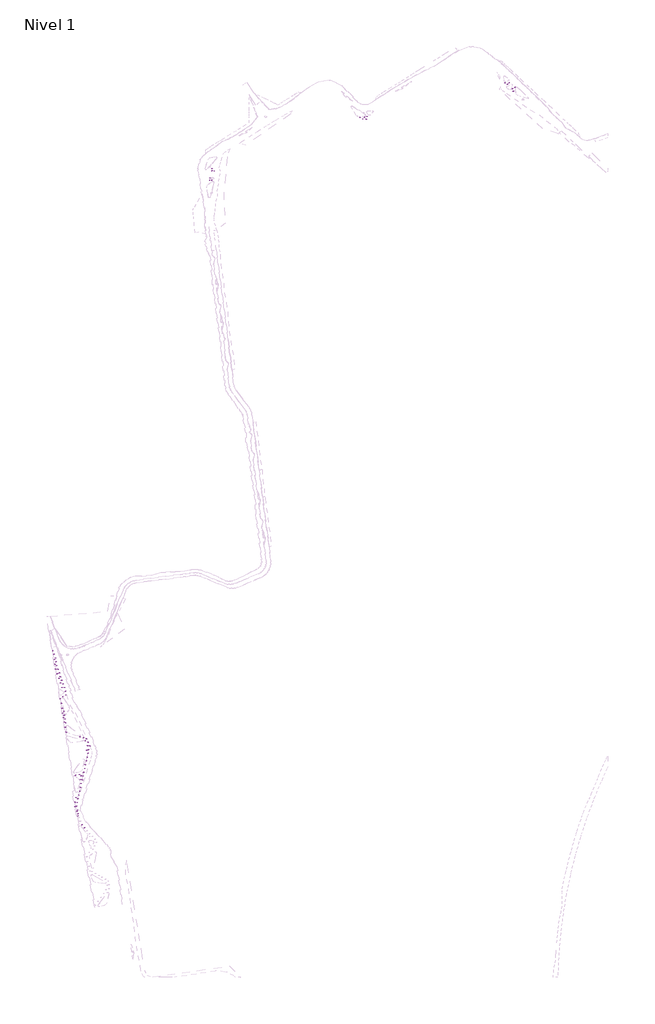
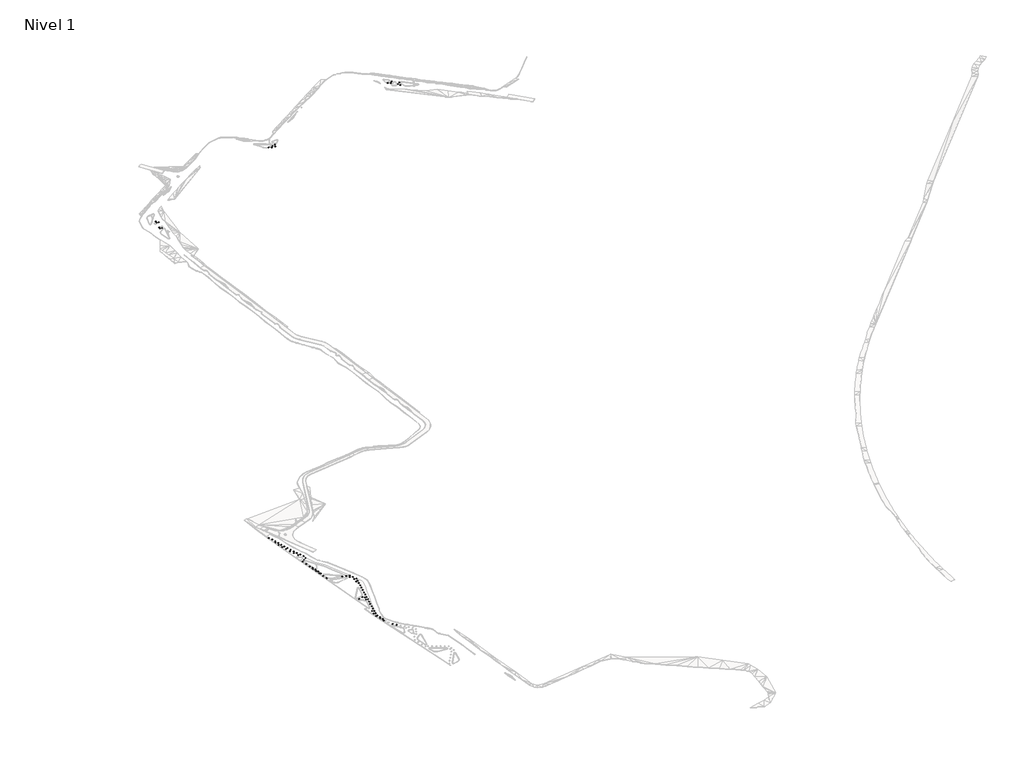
# One storey, part 45 of 45: 87 proxies.
"""IFC4 building model written with IfcOpenShell, lengths in millimetres."""

import ifcopenshell
import ifcopenshell.guid

model = None  # the IFC model being written
_history = None  # IfcOwnerHistory: only IFC2X3 demands one
_inside = {}  # id of a spatial element -> (the spatial element, [elements in it])
_under = {}  # id of a project, library or spatial element -> (it, [spatial elements below it])
_declared = {}  # id of a project -> (the project, [libraries it declares])
_typed = {}  # id of a type object -> (the type object, [elements of that type])
_made_of = {}  # id of a material, layer set ... -> (it, [elements and type objects made of it])


def new_model(schema):
    """Start an empty IFC model of exactly this schema.

    Asked for "IFC4X3", IfcOpenShell would pick the latest addendum, in which some entities
    have other attributes; the version numbers below select the first issue.
    IFC2X3 requires an IfcOwnerHistory on every rooted entity: one is made here for all.
    """
    global model, _history
    if schema == "IFC4X3":
        model = ifcopenshell.file(schema_version=(4, 3, 0, 0))
    else:
        model = ifcopenshell.file(schema=schema)
    _inside.clear()
    _under.clear()
    _declared.clear()
    _typed.clear()
    _made_of.clear()
    _history = None
    if model.schema == "IFC2X3":
        org = make("IfcOrganization", Name="unknown")
        user = make(
            "IfcPersonAndOrganization",
            ThePerson=make("IfcPerson", FamilyName="unknown"),
            TheOrganization=org,
        )
        app = make(
            "IfcApplication",
            ApplicationDeveloper=org,
            Version="unknown",
            ApplicationFullName="unknown",
            ApplicationIdentifier="unknown",
        )
        _history = make(
            "IfcOwnerHistory",
            OwningUser=user,
            OwningApplication=app,
            ChangeAction="ADDED",
            CreationDate=0,
        )
    return model


def make(cls, **values):
    """One entity of the class cls with the attributes given. An attribute that is None is left unset."""
    return model.create_entity(
        cls, **{name: value for name, value in values.items() if value is not None}
    )


def rooted(cls, **values):
    """An entity with a GlobalId (a new one), such as an element, a storey or a relation."""
    return make(cls, GlobalId=ifcopenshell.guid.new(), OwnerHistory=_history, **values)


def si_unit(unit_type, name, prefix=None):
    """IfcSIUnit, for example si_unit("LENGTHUNIT", "METRE", prefix="MILLI")."""
    return make("IfcSIUnit", UnitType=unit_type, Prefix=prefix, Name=name)


def assignment(units):
    """IfcUnitAssignment: the units of a project."""
    return None if units is None else make("IfcUnitAssignment", Units=units)


def point(xyz):
    """IfcCartesianPoint."""
    return None if xyz is None else make("IfcCartesianPoint", Coordinates=xyz)


def direction(xyz):
    """IfcDirection."""
    return None if xyz is None else make("IfcDirection", DirectionRatios=xyz)


def frame(location, z_axis=None, x_axis=None):
    """IfcAxis2Placement3D, a coordinate frame: its origin and axes. An axis left out is left unset."""
    return make(
        "IfcAxis2Placement3D",
        Location=point(location),
        Axis=direction(z_axis),
        RefDirection=direction(x_axis),
    )


def frame_2d(location, x_axis=None):
    """IfcAxis2Placement2D, a coordinate frame in the plane: its origin and x axis."""
    return make(
        "IfcAxis2Placement2D", Location=point(location), RefDirection=direction(x_axis)
    )


def origin():
    """The frame at (0, 0, 0) with its axes left unset."""
    return frame((0.0, 0.0, 0.0))


def origin_with_axes():
    """The frame at (0, 0, 0) with the z axis (0, 0, 1) and the x axis (1, 0, 0) written out."""
    return frame((0.0, 0.0, 0.0), z_axis=(0.0, 0.0, 1.0), x_axis=(1.0, 0.0, 0.0))


def origin_2d():
    """The frame at (0, 0) in the plane with its x axis left unset."""
    return frame_2d((0.0, 0.0))


def place(relative_to, where):
    """IfcLocalPlacement: puts the frame where relative to a parent placement (None: the world)."""
    return make(
        "IfcLocalPlacement", PlacementRelTo=relative_to, RelativePlacement=where
    )


def context(
    kind, dimensions, precision=None, world=None, true_north=None, identifier=None
):
    """IfcGeometricRepresentationContext, for example the 3D "Model" context."""
    return make(
        "IfcGeometricRepresentationContext",
        ContextIdentifier=identifier,
        ContextType=kind,
        CoordinateSpaceDimension=dimensions,
        Precision=precision,
        WorldCoordinateSystem=world,
        TrueNorth=true_north,
    )


def project(units=None, contexts=None):
    """IfcProject with its units and contexts."""
    return rooted(
        "IfcProject",
        Name="project",
        RepresentationContexts=contexts,
        UnitsInContext=assignment(units),
    )


def spatial(cls, under=None, at=None, **own):
    """A site, building, storey or space (cls), placed at a placement, below another one or the project."""
    s = rooted(cls, ObjectPlacement=at, **own)
    if under is not None:
        _under.setdefault(under.id(), (under, []))[1].append(s)
    return s


def circle_curve(where, radius):
    """IfcCircle in the frame where."""
    return make("IfcCircle", Position=where, Radius=radius)


def trimmed(basis, trim1, trim2, sense, master):
    """IfcTrimmedCurve: the piece of a basis curve between two trims."""
    return make(
        "IfcTrimmedCurve",
        BasisCurve=basis,
        Trim1=trim1,
        Trim2=trim2,
        SenseAgreement=sense,
        MasterRepresentation=master,
    )


def segment(curve, same_sense, transition):
    """IfcCompositeCurveSegment."""
    return make(
        "IfcCompositeCurveSegment",
        Transition=transition,
        SameSense=same_sense,
        ParentCurve=curve,
    )


def composite_curve(segments, self_intersect=None):
    """IfcCompositeCurve: segments joined end to end."""
    return make("IfcCompositeCurve", Segments=segments, SelfIntersect=self_intersect)


def outline(outer, holes=None, kind="AREA"):
    """IfcArbitraryClosedProfileDef: a profile drawn as a closed curve; with holes, ...WithVoids."""
    if holes is None:
        return make("IfcArbitraryClosedProfileDef", ProfileType=kind, OuterCurve=outer)
    return make(
        "IfcArbitraryProfileDefWithVoids",
        ProfileType=kind,
        OuterCurve=outer,
        InnerCurves=holes,
    )


def extrude(swept, where, along, depth):
    """IfcExtrudedAreaSolid: the profile swept, set in the frame where, extruded along a direction by depth."""
    return make(
        "IfcExtrudedAreaSolid",
        SweptArea=swept,
        Position=where,
        ExtrudedDirection=direction(along),
        Depth=depth,
    )


def shape(context_of_items, identifier, shape_type, items):
    """IfcShapeRepresentation: the items that make up one representation, for example the "Body"."""
    return make(
        "IfcShapeRepresentation",
        ContextOfItems=context_of_items,
        RepresentationIdentifier=identifier,
        RepresentationType=shape_type,
        Items=items,
    )


def source(mapping_origin, context_of_items, identifier, shape_type, items):
    """IfcRepresentationMap: a shape defined once, which mapped items show again and again."""
    return make(
        "IfcRepresentationMap",
        MappingOrigin=mapping_origin,
        MappedRepresentation=shape(context_of_items, identifier, shape_type, items),
    )


def transform(
    local_origin,
    x_axis=None,
    y_axis=None,
    z_axis=None,
    scale=None,
    scale2=None,
    scale3=None,
    uniform=True,
):
    """IfcCartesianTransformationOperator3D, or its non-uniform kind. x_axis, y_axis, z_axis: its Axis1, 2, 3."""
    if uniform:
        return make(
            "IfcCartesianTransformationOperator3D",
            Axis1=direction(x_axis),
            Axis2=direction(y_axis),
            LocalOrigin=point(local_origin),
            Scale=scale,
            Axis3=direction(z_axis),
        )
    return make(
        "IfcCartesianTransformationOperator3DnonUniform",
        Axis1=direction(x_axis),
        Axis2=direction(y_axis),
        LocalOrigin=point(local_origin),
        Scale=scale,
        Axis3=direction(z_axis),
        Scale2=scale2,
        Scale3=scale3,
    )


def mapped(mapping_source, mapping_target):
    """IfcMappedItem: shows the shape of a source again, moved by a transform."""
    return make(
        "IfcMappedItem", MappingSource=mapping_source, MappingTarget=mapping_target
    )


def made_of(thing, what):
    """Note that an element or type object is made of a material, layer set ...; save() writes the relation."""
    if what is not None:
        _made_of.setdefault(what.id(), (what, []))[1].append(thing)
    return thing


def element(
    cls,
    number,
    at=None,
    inside=None,
    cuts=None,
    type_object=None,
    material=None,
    context=None,
    identifier="Body",
    shape_type=None,
    held_by="IfcProductDefinitionShape",
    body=None,
    shapes=None,
    **own,
):
    """One element of the class cls, such as IfcWall. Its Tag is "e" and its number.

    at: its placement. inside: the storey or other place that contains it. cuts: it is an
    opening in that element (IfcRelVoidsElement). A single representation is given by context,
    identifier, shape_type and body (its items); several are given by shapes. held_by: the class
    of the entity that holds the representations. save() writes the other relations.
    """
    e = rooted(cls, Tag="e%d" % number, ObjectPlacement=at, **own)
    if body is not None:
        shapes = [shape(context, identifier, shape_type, body)]
    if shapes is not None:
        e.Representation = make(held_by, Representations=shapes)
    if inside is not None:
        _inside.setdefault(inside.id(), (inside, []))[1].append(e)
    if cuts is not None:
        rooted(
            "IfcRelVoidsElement", RelatingBuildingElement=cuts, RelatedOpeningElement=e
        )
    if type_object is not None:
        _typed.setdefault(type_object.id(), (type_object, []))[1].append(e)
    return made_of(e, material)


def aggregate(whole, parts):
    """IfcRelAggregates: a whole, such as a stair, and the parts it consists of."""
    return rooted("IfcRelAggregates", RelatingObject=whole, RelatedObjects=parts)


def save(model, path):
    """Write the relations noted so far, then the file.

    IfcRelAggregates (storeys below a building ...), IfcRelContainedInSpatialStructure (elements
    in a storey), IfcRelDefinesByType, IfcRelAssociatesMaterial and IfcRelDeclares: one each for
    every whole, place, type object, material and project.
    """
    for whole, parts in _under.values():
        aggregate(whole, parts)
    for where, things in _inside.values():
        rooted(
            "IfcRelContainedInSpatialStructure",
            RelatedElements=things,
            RelatingStructure=where,
        )
    for kind, things in _typed.values():
        rooted("IfcRelDefinesByType", RelatedObjects=things, RelatingType=kind)
    for what, things in _made_of.values():
        rooted("IfcRelAssociatesMaterial", RelatedObjects=things, RelatingMaterial=what)
    for by, libraries in _declared.values():
        rooted("IfcRelDeclares", RelatingContext=by, RelatedDefinitions=libraries)
    model.write(path)


def generic_models_ee420f2a(model_context):
    return source(origin(), model_context, "Body", "SweptSolid", [
        extrude(outline(composite_curve([segment(trimmed(circle_curve(origin_2d(), 450.0), [point((-450.0, 0.0))], [point((450.0, 0.0))], False, "CARTESIAN"), True, "CONTINUOUS"), segment(trimmed(circle_curve(origin_2d(), 450.0), [point((450.0, 0.0))], [point((-450.0, 0.0))], False, "CARTESIAN"), True, "CONTINUOUS")], self_intersect=False)), origin_with_axes(), (0.0, 0.0, 1.0), 50.0),
    ])


model = new_model("IFC4")

# Units and contexts
model_context = context("Model", 3, world=origin())
ifc_project = project(units=[si_unit("LENGTHUNIT", "METRE", prefix="MILLI")], contexts=[model_context])

# Site, building, storey
site = spatial("IfcSite", under=ifc_project)
building = spatial("IfcBuilding", under=site)
storey = spatial("IfcBuildingStorey", under=building, Name="Nivel 1", Elevation=0.0)

# Proxies
placement = place(None, origin())
generic_models_shape = generic_models_ee420f2a(model_context)
element("IfcBuildingElementProxy", 1, Name="BOLARDO : BOLARDO", ObjectType="BOLARDO : BOLARDO", at=placement, inside=storey, context=model_context, shape_type="MappedRepresentation", body=[
    mapped(generic_models_shape, transform((-215905.1534154, 863766.5462096, 6750.0), x_axis=(1.0, 0.0, 0.0), y_axis=(0.0, 1.0, 0.0), z_axis=(0.0, 0.0, 1.0))),
])
element("IfcBuildingElementProxy", 2, Name="BOLARDO : BOLARDO", ObjectType="BOLARDO : BOLARDO", at=placement, inside=storey, context=model_context, shape_type="MappedRepresentation", body=[
    mapped(generic_models_shape, transform((-218007.1057565, 863988.2526787, 6750.0), x_axis=(1.0, 0.0, 0.0), y_axis=(0.0, 1.0, 0.0), z_axis=(0.0, 0.0, 1.0))),
])
element("IfcBuildingElementProxy", 3, Name="BOLARDO : BOLARDO", ObjectType="BOLARDO : BOLARDO", at=placement, inside=storey, context=model_context, shape_type="MappedRepresentation", body=[
    mapped(generic_models_shape, transform((-217791.882087, 866126.8897022, 6750.0), x_axis=(1.0, 0.0, 0.0), y_axis=(0.0, 1.0, 0.0), z_axis=(0.0, 0.0, 1.0))),
])
element("IfcBuildingElementProxy", 4, Name="BOLARDO : BOLARDO", ObjectType="BOLARDO : BOLARDO", at=placement, inside=storey, context=model_context, shape_type="MappedRepresentation", body=[
    mapped(generic_models_shape, transform((-213817.8643959, 873412.9110706, 6750.0), x_axis=(1.0, 0.0, 0.0), y_axis=(0.0, 1.0, 0.0), z_axis=(0.0, 0.0, 1.0))),
])
element("IfcBuildingElementProxy", 5, Name="BOLARDO : BOLARDO", ObjectType="BOLARDO : BOLARDO", at=placement, inside=storey, context=model_context, shape_type="MappedRepresentation", body=[
    mapped(generic_models_shape, transform((-215751.9029291, 875913.6105752, 6750.0), x_axis=(1.0, 0.0, 0.0), y_axis=(0.0, 1.0, 0.0), z_axis=(0.0, 0.0, 1.0))),
])
element("IfcBuildingElementProxy", 6, Name="BOLARDO : BOLARDO", ObjectType="BOLARDO : BOLARDO", at=placement, inside=storey, context=model_context, shape_type="MappedRepresentation", body=[
    mapped(generic_models_shape, transform((-215936.6836806, 873671.6041228, 6750.0), x_axis=(1.0, 0.0, 0.0), y_axis=(0.0, 1.0, 0.0), z_axis=(0.0, 0.0, 1.0))),
])
element("IfcBuildingElementProxy", 7, Name="BOLARDO : BOLARDO", ObjectType="BOLARDO : BOLARDO", at=placement, inside=storey, context=model_context, shape_type="MappedRepresentation", body=[
    mapped(generic_models_shape, transform((-55312.8251347, 929761.8099346, 6250.0), x_axis=(1.0, 0.0, 0.0), y_axis=(0.0, 1.0, 0.0), z_axis=(0.0, 0.0, 1.0))),
])
element("IfcBuildingElementProxy", 8, Name="BOLARDO : BOLARDO", ObjectType="BOLARDO : BOLARDO", at=placement, inside=storey, context=model_context, shape_type="MappedRepresentation", body=[
    mapped(generic_models_shape, transform((-56312.8251347, 927061.8099346, 6250.0), x_axis=(1.0, 0.0, 0.0), y_axis=(0.0, 1.0, 0.0), z_axis=(0.0, 0.0, 1.0))),
])
element("IfcBuildingElementProxy", 9, Name="BOLARDO : BOLARDO", ObjectType="BOLARDO : BOLARDO", at=placement, inside=storey, context=model_context, shape_type="MappedRepresentation", body=[
    mapped(generic_models_shape, transform((-58212.8251347, 929061.8099346, 6250.0), x_axis=(1.0, 0.0, 0.0), y_axis=(0.0, 1.0, 0.0), z_axis=(0.0, 0.0, 1.0))),
])
element("IfcBuildingElementProxy", 10, Name="BOLARDO : BOLARDO", ObjectType="BOLARDO : BOLARDO", at=placement, inside=storey, context=model_context, shape_type="MappedRepresentation", body=[
    mapped(generic_models_shape, transform((-60212.8251347, 927261.8099346, 6250.0), x_axis=(1.0, 0.0, 0.0), y_axis=(0.0, 1.0, 0.0), z_axis=(0.0, 0.0, 1.0))),
])
element("IfcBuildingElementProxy", 11, Name="BOLARDO : BOLARDO", ObjectType="BOLARDO : BOLARDO", at=placement, inside=storey, context=model_context, shape_type="MappedRepresentation", body=[
    mapped(generic_models_shape, transform((-62579.3076708, 928718.5296541, 6250.0), x_axis=(1.0, 0.0, 0.0), y_axis=(0.0, 1.0, 0.0), z_axis=(0.0, 0.0, 1.0))),
])
element("IfcBuildingElementProxy", 12, Name="BOLARDO : BOLARDO", ObjectType="BOLARDO : BOLARDO", at=placement, inside=storey, context=model_context, shape_type="MappedRepresentation", body=[
    mapped(generic_models_shape, transform((97481.5358106, 960008.7342542, 6000.0), x_axis=(1.0, 0.0, 0.0), y_axis=(0.0, 1.0, 0.0), z_axis=(0.0, 0.0, 1.0))),
])
element("IfcBuildingElementProxy", 13, Name="BOLARDO : BOLARDO", ObjectType="BOLARDO : BOLARDO", at=placement, inside=storey, context=model_context, shape_type="MappedRepresentation", body=[
    mapped(generic_models_shape, transform((95089.9839092, 958457.4573452, 6000.0), x_axis=(1.0, 0.0, 0.0), y_axis=(0.0, 1.0, 0.0), z_axis=(0.0, 0.0, 1.0))),
])
element("IfcBuildingElementProxy", 14, Name="BOLARDO : BOLARDO", ObjectType="BOLARDO : BOLARDO", at=placement, inside=storey, context=model_context, shape_type="MappedRepresentation", body=[
    mapped(generic_models_shape, transform((95865.6223637, 955936.632368, 6000.0), x_axis=(1.0, 0.0, 0.0), y_axis=(0.0, 1.0, 0.0), z_axis=(0.0, 0.0, 1.0))),
])
element("IfcBuildingElementProxy", 15, Name="BOLARDO : BOLARDO", ObjectType="BOLARDO : BOLARDO", at=placement, inside=storey, context=model_context, shape_type="MappedRepresentation", body=[
    mapped(generic_models_shape, transform((91836.6115027, 964899.5656202, 6000.0), x_axis=(1.0, 0.0, 0.0), y_axis=(0.0, 1.0, 0.0), z_axis=(0.0, 0.0, 1.0))),
])
element("IfcBuildingElementProxy", 16, Name="BOLARDO : BOLARDO", ObjectType="BOLARDO : BOLARDO", at=placement, inside=storey, context=model_context, shape_type="MappedRepresentation", body=[
    mapped(generic_models_shape, transform((89897.5153664, 963175.9246102, 6000.0), x_axis=(1.0, 0.0, 0.0), y_axis=(0.0, 1.0, 0.0), z_axis=(0.0, 0.0, 1.0))),
])
element("IfcBuildingElementProxy", 17, Name="BOLARDO : BOLARDO", ObjectType="BOLARDO : BOLARDO", at=placement, inside=storey, context=model_context, shape_type="MappedRepresentation", body=[
    mapped(generic_models_shape, transform((87484.4179523, 964619.4739561, 6000.0), x_axis=(1.0, 0.0, 0.0), y_axis=(0.0, 1.0, 0.0), z_axis=(0.0, 0.0, 1.0))),
])
element("IfcBuildingElementProxy", 18, Name="BOLARDO : BOLARDO", ObjectType="BOLARDO : BOLARDO", at=placement, inside=storey, context=model_context, shape_type="MappedRepresentation", body=[
    mapped(generic_models_shape, transform((-380832.3654979, 377180.7820486, 3500.0), x_axis=(1.0, 0.0, 0.0), y_axis=(0.0, 1.0, 0.0), z_axis=(0.0, 0.0, 1.0))),
])
element("IfcBuildingElementProxy", 19, Name="BOLARDO : BOLARDO", ObjectType="BOLARDO : BOLARDO", at=placement, inside=storey, context=model_context, shape_type="MappedRepresentation", body=[
    mapped(generic_models_shape, transform((-379411.5889268, 373434.6126507, 3500.0), x_axis=(1.0, 0.0, 0.0), y_axis=(0.0, 1.0, 0.0), z_axis=(0.0, 0.0, 1.0))),
])
element("IfcBuildingElementProxy", 20, Name="BOLARDO : BOLARDO", ObjectType="BOLARDO : BOLARDO", at=placement, inside=storey, context=model_context, shape_type="MappedRepresentation", body=[
    mapped(generic_models_shape, transform((-378077.6693799, 369596.4239055, 3500.0), x_axis=(1.0, 0.0, 0.0), y_axis=(0.0, 1.0, 0.0), z_axis=(0.0, 0.0, 1.0))),
])
element("IfcBuildingElementProxy", 21, Name="BOLARDO : BOLARDO", ObjectType="BOLARDO : BOLARDO", at=placement, inside=storey, context=model_context, shape_type="MappedRepresentation", body=[
    mapped(generic_models_shape, transform((-379057.2950017, 368097.6948086, 3500.0), x_axis=(1.0, 0.0, 0.0), y_axis=(0.0, 1.0, 0.0), z_axis=(0.0, 0.0, 1.0))),
])
element("IfcBuildingElementProxy", 22, Name="BOLARDO : BOLARDO", ObjectType="BOLARDO : BOLARDO", at=placement, inside=storey, context=model_context, shape_type="MappedRepresentation", body=[
    mapped(generic_models_shape, transform((-377236.4441882, 365734.2961734, 3500.0), x_axis=(1.0, 0.0, 0.0), y_axis=(0.0, 1.0, 0.0), z_axis=(0.0, 0.0, 1.0))),
])
element("IfcBuildingElementProxy", 23, Name="BOLARDO : BOLARDO", ObjectType="BOLARDO : BOLARDO", at=placement, inside=storey, context=model_context, shape_type="MappedRepresentation", body=[
    mapped(generic_models_shape, transform((-378348.9789036, 363014.1537799, 3500.0), x_axis=(1.0, 0.0, 0.0), y_axis=(0.0, 1.0, 0.0), z_axis=(0.0, 0.0, 1.0))),
])
element("IfcBuildingElementProxy", 24, Name="BOLARDO : BOLARDO", ObjectType="BOLARDO : BOLARDO", at=placement, inside=storey, context=model_context, shape_type="MappedRepresentation", body=[
    mapped(generic_models_shape, transform((-376327.0266584, 361822.3903809, 3500.0), x_axis=(1.0, 0.0, 0.0), y_axis=(0.0, 1.0, 0.0), z_axis=(0.0, 0.0, 1.0))),
])
element("IfcBuildingElementProxy", 25, Name="BOLARDO : BOLARDO", ObjectType="BOLARDO : BOLARDO", at=placement, inside=storey, context=model_context, shape_type="MappedRepresentation", body=[
    mapped(generic_models_shape, transform((-377460.9165113, 358070.1521602, 3500.0), x_axis=(1.0, 0.0, 0.0), y_axis=(0.0, 1.0, 0.0), z_axis=(0.0, 0.0, 1.0))),
])
element("IfcBuildingElementProxy", 26, Name="BOLARDO : BOLARDO", ObjectType="BOLARDO : BOLARDO", at=placement, inside=storey, context=model_context, shape_type="MappedRepresentation", body=[
    mapped(generic_models_shape, transform((-375190.9640392, 358070.1521602, 3500.0), x_axis=(1.0, 0.0, 0.0), y_axis=(0.0, 1.0, 0.0), z_axis=(0.0, 0.0, 1.0))),
])
element("IfcBuildingElementProxy", 27, Name="BOLARDO : BOLARDO", ObjectType="BOLARDO : BOLARDO", at=placement, inside=storey, context=model_context, shape_type="MappedRepresentation", body=[
    mapped(generic_models_shape, transform((-375949.2493496, 353271.9721871, 3500.0), x_axis=(1.0, 0.0, 0.0), y_axis=(0.0, 1.0, 0.0), z_axis=(0.0, 0.0, 1.0))),
])
element("IfcBuildingElementProxy", 28, Name="BOLARDO : BOLARDO", ObjectType="BOLARDO : BOLARDO", at=placement, inside=storey, context=model_context, shape_type="MappedRepresentation", body=[
    mapped(generic_models_shape, transform((-373961.57076, 354165.8394818, 3500.0), x_axis=(1.0, 0.0, 0.0), y_axis=(0.0, 1.0, 0.0), z_axis=(0.0, 0.0, 1.0))),
])
element("IfcBuildingElementProxy", 29, Name="BOLARDO : BOLARDO", ObjectType="BOLARDO : BOLARDO", at=placement, inside=storey, context=model_context, shape_type="MappedRepresentation", body=[
    mapped(generic_models_shape, transform((-374472.7128946, 348500.5791363, 3500.0), x_axis=(1.0, 0.0, 0.0), y_axis=(0.0, 1.0, 0.0), z_axis=(0.0, 0.0, 1.0))),
])
element("IfcBuildingElementProxy", 30, Name="BOLARDO : BOLARDO", ObjectType="BOLARDO : BOLARDO", at=placement, inside=storey, context=model_context, shape_type="MappedRepresentation", body=[
    mapped(generic_models_shape, transform((-372775.7520504, 350302.0836079, 3500.0), x_axis=(1.0, 0.0, 0.0), y_axis=(0.0, 1.0, 0.0), z_axis=(0.0, 0.0, 1.0))),
])
element("IfcBuildingElementProxy", 31, Name="BOLARDO : BOLARDO", ObjectType="BOLARDO : BOLARDO", at=placement, inside=storey, context=model_context, shape_type="MappedRepresentation", body=[
    mapped(generic_models_shape, transform((-372775.7520504, 343820.0335631, 3500.0), x_axis=(1.0, 0.0, 0.0), y_axis=(0.0, 1.0, 0.0), z_axis=(0.0, 0.0, 1.0))),
])
element("IfcBuildingElementProxy", 32, Name="BOLARDO : BOLARDO", ObjectType="BOLARDO : BOLARDO", at=placement, inside=storey, context=model_context, shape_type="MappedRepresentation", body=[
    mapped(generic_models_shape, transform((-371448.4893253, 346542.0653002, 3500.0), x_axis=(1.0, 0.0, 0.0), y_axis=(0.0, 1.0, 0.0), z_axis=(0.0, 0.0, 1.0))),
])
element("IfcBuildingElementProxy", 33, Name="BOLARDO : BOLARDO", ObjectType="BOLARDO : BOLARDO", at=placement, inside=storey, context=model_context, shape_type="MappedRepresentation", body=[
    mapped(generic_models_shape, transform((-370173.0230256, 342793.4387365, 3500.0), x_axis=(1.0, 0.0, 0.0), y_axis=(0.0, 1.0, 0.0), z_axis=(0.0, 0.0, 1.0))),
])
element("IfcBuildingElementProxy", 34, Name="BOLARDO : BOLARDO", ObjectType="BOLARDO : BOLARDO", at=placement, inside=storey, context=model_context, shape_type="MappedRepresentation", body=[
    mapped(generic_models_shape, transform((-371162.085484, 339073.2079263, 3500.0), x_axis=(1.0, 0.0, 0.0), y_axis=(0.0, 1.0, 0.0), z_axis=(0.0, 0.0, 1.0))),
])
element("IfcBuildingElementProxy", 35, Name="BOLARDO : BOLARDO", ObjectType="BOLARDO : BOLARDO", at=placement, inside=storey, context=model_context, shape_type="MappedRepresentation", body=[
    mapped(generic_models_shape, transform((-368688.5302918, 339073.2079263, 3500.0), x_axis=(1.0, 0.0, 0.0), y_axis=(0.0, 1.0, 0.0), z_axis=(0.0, 0.0, 1.0))),
])
element("IfcBuildingElementProxy", 36, Name="BOLARDO : BOLARDO", ObjectType="BOLARDO : BOLARDO", at=placement, inside=storey, context=model_context, shape_type="MappedRepresentation", body=[
    mapped(generic_models_shape, transform((-367362.085484, 335173.2079263, 3500.0), x_axis=(1.0, 0.0, 0.0), y_axis=(0.0, 1.0, 0.0), z_axis=(0.0, 0.0, 1.0))),
])
element("IfcBuildingElementProxy", 37, Name="BOLARDO : BOLARDO", ObjectType="BOLARDO : BOLARDO", at=placement, inside=storey, context=model_context, shape_type="MappedRepresentation", body=[
    mapped(generic_models_shape, transform((-367437.1342188, 331346.6579455, 3500.0), x_axis=(1.0, 0.0, 0.0), y_axis=(0.0, 1.0, 0.0), z_axis=(0.0, 0.0, 1.0))),
])
element("IfcBuildingElementProxy", 38, Name="BOLARDO : BOLARDO", ObjectType="BOLARDO : BOLARDO", at=placement, inside=storey, context=model_context, shape_type="MappedRepresentation", body=[
    mapped(generic_models_shape, transform((-370011.8897702, 329646.6579455, 3500.0), x_axis=(1.0, 0.0, 0.0), y_axis=(0.0, 1.0, 0.0), z_axis=(0.0, 0.0, 1.0))),
])
element("IfcBuildingElementProxy", 39, Name="BOLARDO : BOLARDO", ObjectType="BOLARDO : BOLARDO", at=placement, inside=storey, context=model_context, shape_type="MappedRepresentation", body=[
    mapped(generic_models_shape, transform((-372670.0712993, 327573.2079263, 3500.0), x_axis=(1.0, 0.0, 0.0), y_axis=(0.0, 1.0, 0.0), z_axis=(0.0, 0.0, 1.0))),
])
element("IfcBuildingElementProxy", 40, Name="BOLARDO : BOLARDO", ObjectType="BOLARDO : BOLARDO", at=placement, inside=storey, context=model_context, shape_type="MappedRepresentation", body=[
    mapped(generic_models_shape, transform((-371711.8897702, 322667.2874559, 3500.0), x_axis=(1.0, 0.0, 0.0), y_axis=(0.0, 1.0, 0.0), z_axis=(0.0, 0.0, 1.0))),
])
element("IfcBuildingElementProxy", 41, Name="BOLARDO : BOLARDO", ObjectType="BOLARDO : BOLARDO", at=placement, inside=storey, context=model_context, shape_type="MappedRepresentation", body=[
    mapped(generic_models_shape, transform((-370910.3095503, 317638.36604, 3500.0), x_axis=(1.0, 0.0, 0.0), y_axis=(0.0, 1.0, 0.0), z_axis=(0.0, 0.0, 1.0))),
])
element("IfcBuildingElementProxy", 42, Name="BOLARDO : BOLARDO", ObjectType="BOLARDO : BOLARDO", at=placement, inside=storey, context=model_context, shape_type="MappedRepresentation", body=[
    mapped(generic_models_shape, transform((-369449.7839787, 314367.6115908, 3500.0), x_axis=(1.0, 0.0, 0.0), y_axis=(0.0, 1.0, 0.0), z_axis=(0.0, 0.0, 1.0))),
])
element("IfcBuildingElementProxy", 43, Name="BOLARDO : BOLARDO", ObjectType="BOLARDO : BOLARDO", at=placement, inside=storey, context=model_context, shape_type="MappedRepresentation", body=[
    mapped(generic_models_shape, transform((-370130.4609509, 312677.6058161, 3500.0), x_axis=(1.0, 0.0, 0.0), y_axis=(0.0, 1.0, 0.0), z_axis=(0.0, 0.0, 1.0))),
])
element("IfcBuildingElementProxy", 44, Name="BOLARDO : BOLARDO", ObjectType="BOLARDO : BOLARDO", at=placement, inside=storey, context=model_context, shape_type="MappedRepresentation", body=[
    mapped(generic_models_shape, transform((-368746.1133817, 310359.9902227, 3500.0), x_axis=(1.0, 0.0, 0.0), y_axis=(0.0, 1.0, 0.0), z_axis=(0.0, 0.0, 1.0))),
])
element("IfcBuildingElementProxy", 45, Name="BOLARDO : BOLARDO", ObjectType="BOLARDO : BOLARDO", at=placement, inside=storey, context=model_context, shape_type="MappedRepresentation", body=[
    mapped(generic_models_shape, transform((-368124.5415362, 306508.4892019, 3500.0), x_axis=(1.0, 0.0, 0.0), y_axis=(0.0, 1.0, 0.0), z_axis=(0.0, 0.0, 1.0))),
])
element("IfcBuildingElementProxy", 46, Name="BOLARDO : BOLARDO", ObjectType="BOLARDO : BOLARDO", at=placement, inside=storey, context=model_context, shape_type="MappedRepresentation", body=[
    mapped(generic_models_shape, transform((-369449.7839787, 307923.9457052, 3500.0), x_axis=(1.0, 0.0, 0.0), y_axis=(0.0, 1.0, 0.0), z_axis=(0.0, 0.0, 1.0))),
])
element("IfcBuildingElementProxy", 47, Name="BOLARDO : BOLARDO", ObjectType="BOLARDO : BOLARDO", at=placement, inside=storey, context=model_context, shape_type="MappedRepresentation", body=[
    mapped(generic_models_shape, transform((-367418.0300699, 302502.0970554, 3500.0), x_axis=(1.0, 0.0, 0.0), y_axis=(0.0, 1.0, 0.0), z_axis=(0.0, 0.0, 1.0))),
])
element("IfcBuildingElementProxy", 48, Name="BOLARDO : BOLARDO", ObjectType="BOLARDO : BOLARDO", at=placement, inside=storey, context=model_context, shape_type="MappedRepresentation", body=[
    mapped(generic_models_shape, transform((-368506.8427648, 303357.5927442, 3500.0), x_axis=(1.0, 0.0, 0.0), y_axis=(0.0, 1.0, 0.0), z_axis=(0.0, 0.0, 1.0))),
])
element("IfcBuildingElementProxy", 49, Name="BOLARDO : BOLARDO", ObjectType="BOLARDO : BOLARDO", at=placement, inside=storey, context=model_context, shape_type="MappedRepresentation", body=[
    mapped(generic_models_shape, transform((-367614.0348625, 297951.027896, 3500.0), x_axis=(1.0, 0.0, 0.0), y_axis=(0.0, 1.0, 0.0), z_axis=(0.0, 0.0, 1.0))),
])
element("IfcBuildingElementProxy", 50, Name="BOLARDO : BOLARDO", ObjectType="BOLARDO : BOLARDO", at=placement, inside=storey, context=model_context, shape_type="MappedRepresentation", body=[
    mapped(generic_models_shape, transform((-366626.5491145, 292889.3863719, 3500.0), x_axis=(1.0, 0.0, 0.0), y_axis=(0.0, 1.0, 0.0), z_axis=(0.0, 0.0, 1.0))),
])
element("IfcBuildingElementProxy", 51, Name="BOLARDO : BOLARDO", ObjectType="BOLARDO : BOLARDO", at=placement, inside=storey, context=model_context, shape_type="MappedRepresentation", body=[
    mapped(generic_models_shape, transform((-352650.3519644, 287974.1871845, 3500.0), x_axis=(1.0, 0.0, 0.0), y_axis=(0.0, 1.0, 0.0), z_axis=(0.0, 0.0, 1.0))),
])
element("IfcBuildingElementProxy", 52, Name="BOLARDO : BOLARDO", ObjectType="BOLARDO : BOLARDO", at=placement, inside=storey, context=model_context, shape_type="MappedRepresentation", body=[
    mapped(generic_models_shape, transform((-348802.0793189, 287043.0138748, 3500.0), x_axis=(1.0, 0.0, 0.0), y_axis=(0.0, 1.0, 0.0), z_axis=(0.0, 0.0, 1.0))),
])
element("IfcBuildingElementProxy", 53, Name="BOLARDO : BOLARDO", ObjectType="BOLARDO : BOLARDO", at=placement, inside=storey, context=model_context, shape_type="MappedRepresentation", body=[
    mapped(generic_models_shape, transform((-346764.4223181, 283889.9420427, 3500.0), x_axis=(1.0, 0.0, 0.0), y_axis=(0.0, 1.0, 0.0), z_axis=(0.0, 0.0, 1.0))),
])
element("IfcBuildingElementProxy", 54, Name="BOLARDO : BOLARDO", ObjectType="BOLARDO : BOLARDO", at=placement, inside=storey, context=model_context, shape_type="MappedRepresentation", body=[
    mapped(generic_models_shape, transform((-344060.8539408, 282538.1578541, 3500.0), x_axis=(1.0, 0.0, 0.0), y_axis=(0.0, 1.0, 0.0), z_axis=(0.0, 0.0, 1.0))),
])
element("IfcBuildingElementProxy", 55, Name="BOLARDO : BOLARDO", ObjectType="BOLARDO : BOLARDO", at=placement, inside=storey, context=model_context, shape_type="MappedRepresentation", body=[
    mapped(generic_models_shape, transform((-345570.9391726, 285985.652201, 3500.0), x_axis=(1.0, 0.0, 0.0), y_axis=(0.0, 1.0, 0.0), z_axis=(0.0, 0.0, 1.0))),
])
element("IfcBuildingElementProxy", 56, Name="BOLARDO : BOLARDO", ObjectType="BOLARDO : BOLARDO", at=placement, inside=storey, context=model_context, shape_type="MappedRepresentation", body=[
    mapped(generic_models_shape, transform((-344837.9317697, 278882.325388, 3500.0), x_axis=(1.0, 0.0, 0.0), y_axis=(0.0, 1.0, 0.0), z_axis=(0.0, 0.0, 1.0))),
])
element("IfcBuildingElementProxy", 57, Name="BOLARDO : BOLARDO", ObjectType="BOLARDO : BOLARDO", at=placement, inside=storey, context=model_context, shape_type="MappedRepresentation", body=[
    mapped(generic_models_shape, transform((-342403.3195327, 278706.492282, 3500.0), x_axis=(1.0, 0.0, 0.0), y_axis=(0.0, 1.0, 0.0), z_axis=(0.0, 0.0, 1.0))),
])
element("IfcBuildingElementProxy", 58, Name="BOLARDO : BOLARDO", ObjectType="BOLARDO : BOLARDO", at=placement, inside=storey, context=model_context, shape_type="MappedRepresentation", body=[
    mapped(generic_models_shape, transform((-345396.0071257, 274108.2681804, 3500.0), x_axis=(1.0, 0.0, 0.0), y_axis=(0.0, 1.0, 0.0), z_axis=(0.0, 0.0, 1.0))),
])
element("IfcBuildingElementProxy", 59, Name="BOLARDO : BOLARDO", ObjectType="BOLARDO : BOLARDO", at=placement, inside=storey, context=model_context, shape_type="MappedRepresentation", body=[
    mapped(generic_models_shape, transform((-343461.8429597, 274838.6518515, 3500.0), x_axis=(1.0, 0.0, 0.0), y_axis=(0.0, 1.0, 0.0), z_axis=(0.0, 0.0, 1.0))),
])
element("IfcBuildingElementProxy", 60, Name="BOLARDO : BOLARDO", ObjectType="BOLARDO : BOLARDO", at=placement, inside=storey, context=model_context, shape_type="MappedRepresentation", body=[
    mapped(generic_models_shape, transform((-344299.248127, 271063.4812516, 3500.0), x_axis=(1.0, 0.0, 0.0), y_axis=(0.0, 1.0, 0.0), z_axis=(0.0, 0.0, 1.0))),
])
element("IfcBuildingElementProxy", 61, Name="BOLARDO : BOLARDO", ObjectType="BOLARDO : BOLARDO", at=placement, inside=storey, context=model_context, shape_type="MappedRepresentation", body=[
    mapped(generic_models_shape, transform((-345168.1628989, 267006.2756578, 3500.0), x_axis=(1.0, 0.0, 0.0), y_axis=(0.0, 1.0, 0.0), z_axis=(0.0, 0.0, 1.0))),
])
element("IfcBuildingElementProxy", 62, Name="BOLARDO : BOLARDO", ObjectType="BOLARDO : BOLARDO", at=placement, inside=storey, context=model_context, shape_type="MappedRepresentation", body=[
    mapped(generic_models_shape, transform((-346114.6661208, 263124.4784974, 3500.0), x_axis=(1.0, 0.0, 0.0), y_axis=(0.0, 1.0, 0.0), z_axis=(0.0, 0.0, 1.0))),
])
element("IfcBuildingElementProxy", 63, Name="BOLARDO : BOLARDO", ObjectType="BOLARDO : BOLARDO", at=placement, inside=storey, context=model_context, shape_type="MappedRepresentation", body=[
    mapped(generic_models_shape, transform((-346973.2397593, 259255.6459761, 3500.0), x_axis=(1.0, 0.0, 0.0), y_axis=(0.0, 1.0, 0.0), z_axis=(0.0, 0.0, 1.0))),
])
element("IfcBuildingElementProxy", 64, Name="BOLARDO : BOLARDO", ObjectType="BOLARDO : BOLARDO", at=placement, inside=storey, context=model_context, shape_type="MappedRepresentation", body=[
    mapped(generic_models_shape, transform((-347799.6744628, 255297.5769397, 3500.0), x_axis=(1.0, 0.0, 0.0), y_axis=(0.0, 1.0, 0.0), z_axis=(0.0, 0.0, 1.0))),
])
element("IfcBuildingElementProxy", 65, Name="BOLARDO : BOLARDO", ObjectType="BOLARDO : BOLARDO", at=placement, inside=storey, context=model_context, shape_type="MappedRepresentation", body=[
    mapped(generic_models_shape, transform((-348657.9640648, 251432.9383425, 3500.0), x_axis=(1.0, 0.0, 0.0), y_axis=(0.0, 1.0, 0.0), z_axis=(0.0, 0.0, 1.0))),
])
element("IfcBuildingElementProxy", 66, Name="BOLARDO : BOLARDO", ObjectType="BOLARDO : BOLARDO", at=placement, inside=storey, context=model_context, shape_type="MappedRepresentation", body=[
    mapped(generic_models_shape, transform((-349552.3459213, 247569.2087224, 3500.0), x_axis=(1.0, 0.0, 0.0), y_axis=(0.0, 1.0, 0.0), z_axis=(0.0, 0.0, 1.0))),
])
element("IfcBuildingElementProxy", 67, Name="BOLARDO : BOLARDO", ObjectType="BOLARDO : BOLARDO", at=placement, inside=storey, context=model_context, shape_type="MappedRepresentation", body=[
    mapped(generic_models_shape, transform((-351270.8910162, 247819.7659039, 3500.0), x_axis=(1.0, 0.0, 0.0), y_axis=(0.0, 1.0, 0.0), z_axis=(0.0, 0.0, 1.0))),
])
element("IfcBuildingElementProxy", 68, Name="BOLARDO : BOLARDO", ObjectType="BOLARDO : BOLARDO", at=placement, inside=storey, context=model_context, shape_type="MappedRepresentation", body=[
    mapped(generic_models_shape, transform((-353040.2164394, 249128.8621708, 3500.0), x_axis=(1.0, 0.0, 0.0), y_axis=(0.0, 1.0, 0.0), z_axis=(0.0, 0.0, 1.0))),
])
element("IfcBuildingElementProxy", 69, Name="BOLARDO : BOLARDO", ObjectType="BOLARDO : BOLARDO", at=placement, inside=storey, context=model_context, shape_type="MappedRepresentation", body=[
    mapped(generic_models_shape, transform((-357220.1875479, 248293.0844949, 3500.0), x_axis=(1.0, 0.0, 0.0), y_axis=(0.0, 1.0, 0.0), z_axis=(0.0, 0.0, 1.0))),
])
element("IfcBuildingElementProxy", 70, Name="BOLARDO : BOLARDO", ObjectType="BOLARDO : BOLARDO", at=placement, inside=storey, context=model_context, shape_type="MappedRepresentation", body=[
    mapped(generic_models_shape, transform((-352181.3743256, 243892.9940755, 3500.0), x_axis=(1.0, 0.0, 0.0), y_axis=(0.0, 1.0, 0.0), z_axis=(0.0, 0.0, 1.0))),
])
element("IfcBuildingElementProxy", 71, Name="BOLARDO : BOLARDO", ObjectType="BOLARDO : BOLARDO", at=placement, inside=storey, context=model_context, shape_type="MappedRepresentation", body=[
    mapped(generic_models_shape, transform((-350219.0048897, 243519.9993812, 3500.0), x_axis=(1.0, 0.0, 0.0), y_axis=(0.0, 1.0, 0.0), z_axis=(0.0, 0.0, 1.0))),
])
element("IfcBuildingElementProxy", 72, Name="BOLARDO : BOLARDO", ObjectType="BOLARDO : BOLARDO", at=placement, inside=storey, context=model_context, shape_type="MappedRepresentation", body=[
    mapped(generic_models_shape, transform((-351291.0286362, 239726.1608301, 3500.0), x_axis=(1.0, 0.0, 0.0), y_axis=(0.0, 1.0, 0.0), z_axis=(0.0, 0.0, 1.0))),
])
element("IfcBuildingElementProxy", 73, Name="BOLARDO : BOLARDO", ObjectType="BOLARDO : BOLARDO", at=placement, inside=storey, context=model_context, shape_type="MappedRepresentation", body=[
    mapped(generic_models_shape, transform((-352104.8765678, 235772.407907, 3500.0), x_axis=(1.0, 0.0, 0.0), y_axis=(0.0, 1.0, 0.0), z_axis=(0.0, 0.0, 1.0))),
])
element("IfcBuildingElementProxy", 74, Name="BOLARDO : BOLARDO", ObjectType="BOLARDO : BOLARDO", at=placement, inside=storey, context=model_context, shape_type="MappedRepresentation", body=[
    mapped(generic_models_shape, transform((-352970.5015672, 231833.3078383, 3500.0), x_axis=(1.0, 0.0, 0.0), y_axis=(0.0, 1.0, 0.0), z_axis=(0.0, 0.0, 1.0))),
])
element("IfcBuildingElementProxy", 75, Name="BOLARDO : BOLARDO", ObjectType="BOLARDO : BOLARDO", at=placement, inside=storey, context=model_context, shape_type="MappedRepresentation", body=[
    mapped(generic_models_shape, transform((-353936.8274258, 227883.403391, 3500.0), x_axis=(1.0, 0.0, 0.0), y_axis=(0.0, 1.0, 0.0), z_axis=(0.0, 0.0, 1.0))),
])
element("IfcBuildingElementProxy", 76, Name="BOLARDO : BOLARDO", ObjectType="BOLARDO : BOLARDO", at=placement, inside=storey, context=model_context, shape_type="MappedRepresentation", body=[
    mapped(generic_models_shape, transform((-356442.5605781, 225239.518371, 3500.0), x_axis=(1.0, 0.0, 0.0), y_axis=(0.0, 1.0, 0.0), z_axis=(0.0, 0.0, 1.0))),
])
element("IfcBuildingElementProxy", 77, Name="BOLARDO : BOLARDO", ObjectType="BOLARDO : BOLARDO", at=placement, inside=storey, context=model_context, shape_type="MappedRepresentation", body=[
    mapped(generic_models_shape, transform((-354672.4681063, 223995.1610054, 3500.0), x_axis=(1.0, 0.0, 0.0), y_axis=(0.0, 1.0, 0.0), z_axis=(0.0, 0.0, 1.0))),
])
element("IfcBuildingElementProxy", 78, Name="BOLARDO : BOLARDO", ObjectType="BOLARDO : BOLARDO", at=placement, inside=storey, context=model_context, shape_type="MappedRepresentation", body=[
    mapped(generic_models_shape, transform((-355557.5657688, 220153.3319279, 3500.0), x_axis=(1.0, 0.0, 0.0), y_axis=(0.0, 1.0, 0.0), z_axis=(0.0, 0.0, 1.0))),
])
element("IfcBuildingElementProxy", 79, Name="BOLARDO : BOLARDO", ObjectType="BOLARDO : BOLARDO", at=placement, inside=storey, context=model_context, shape_type="MappedRepresentation", body=[
    mapped(generic_models_shape, transform((-357498.6288772, 220470.3980134, 3500.0), x_axis=(1.0, 0.0, 0.0), y_axis=(0.0, 1.0, 0.0), z_axis=(0.0, 0.0, 1.0))),
])
element("IfcBuildingElementProxy", 80, Name="BOLARDO : BOLARDO", ObjectType="BOLARDO : BOLARDO", at=placement, inside=storey, context=model_context, shape_type="MappedRepresentation", body=[
    mapped(generic_models_shape, transform((-355889.1623385, 216347.1129009, 3500.0), x_axis=(1.0, 0.0, 0.0), y_axis=(0.0, 1.0, 0.0), z_axis=(0.0, 0.0, 1.0))),
])
element("IfcBuildingElementProxy", 81, Name="BOLARDO : BOLARDO", ObjectType="BOLARDO : BOLARDO", at=placement, inside=storey, context=model_context, shape_type="MappedRepresentation", body=[
    mapped(generic_models_shape, transform((-357259.8429399, 215887.2716668, 3500.0), x_axis=(1.0, 0.0, 0.0), y_axis=(0.0, 1.0, 0.0), z_axis=(0.0, 0.0, 1.0))),
])
element("IfcBuildingElementProxy", 82, Name="BOLARDO : BOLARDO", ObjectType="BOLARDO : BOLARDO", at=placement, inside=storey, context=model_context, shape_type="MappedRepresentation", body=[
    mapped(generic_models_shape, transform((-355165.6630786, 212339.1011922, 3500.0), x_axis=(1.0, 0.0, 0.0), y_axis=(0.0, 1.0, 0.0), z_axis=(0.0, 0.0, 1.0))),
])
element("IfcBuildingElementProxy", 83, Name="BOLARDO : BOLARDO", ObjectType="BOLARDO : BOLARDO", at=placement, inside=storey, context=model_context, shape_type="MappedRepresentation", body=[
    mapped(generic_models_shape, transform((-355889.1623385, 210878.33385, 3500.0), x_axis=(1.0, 0.0, 0.0), y_axis=(0.0, 1.0, 0.0), z_axis=(0.0, 0.0, 1.0))),
])
element("IfcBuildingElementProxy", 84, Name="BOLARDO : BOLARDO", ObjectType="BOLARDO : BOLARDO", at=placement, inside=storey, context=model_context, shape_type="MappedRepresentation", body=[
    mapped(generic_models_shape, transform((-354464.6471053, 208461.1851283, 3500.0), x_axis=(1.0, 0.0, 0.0), y_axis=(0.0, 1.0, 0.0), z_axis=(0.0, 0.0, 1.0))),
])
element("IfcBuildingElementProxy", 85, Name="BOLARDO : BOLARDO", ObjectType="BOLARDO : BOLARDO", at=placement, inside=storey, context=model_context, shape_type="MappedRepresentation", body=[
    mapped(generic_models_shape, transform((-354902.9363441, 206131.7759225, 3500.0), x_axis=(1.0, 0.0, 0.0), y_axis=(0.0, 1.0, 0.0), z_axis=(0.0, 0.0, 1.0))),
])
element("IfcBuildingElementProxy", 86, Name="BOLARDO : BOLARDO", ObjectType="BOLARDO : BOLARDO", at=placement, inside=storey, context=model_context, shape_type="MappedRepresentation", body=[
    mapped(generic_models_shape, transform((-350354.6130683, 197076.7667601, 3500.0), x_axis=(1.0, 0.0, 0.0), y_axis=(0.0, 1.0, 0.0), z_axis=(0.0, 0.0, 1.0))),
])
element("IfcBuildingElementProxy", 87, Name="BOLARDO : BOLARDO", ObjectType="BOLARDO : BOLARDO", at=placement, inside=storey, context=model_context, shape_type="MappedRepresentation", body=[
    mapped(generic_models_shape, transform((-347896.0545398, 193924.1044705, 3500.0), x_axis=(1.0, 0.0, 0.0), y_axis=(0.0, 1.0, 0.0), z_axis=(0.0, 0.0, 1.0))),
])

save(model, "model.ifc")
